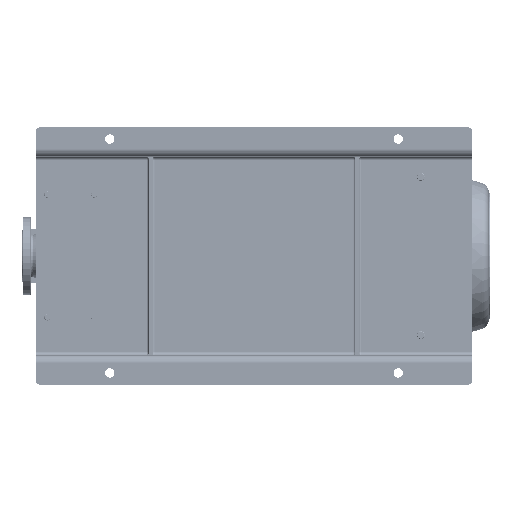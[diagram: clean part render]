
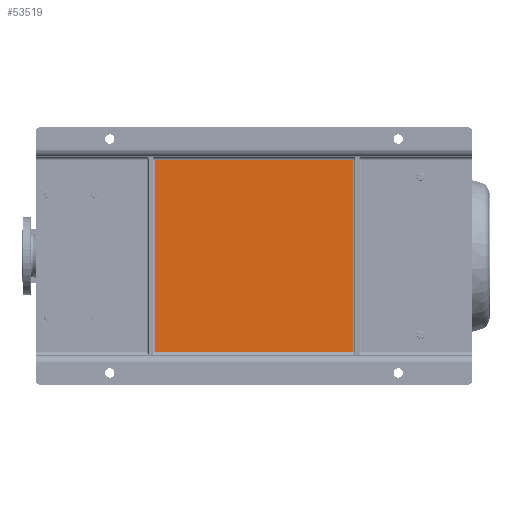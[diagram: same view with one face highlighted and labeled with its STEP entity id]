
A CAD part, front view. The second image highlights one B-rep face of the part: STEP entity #53519.
In plain terms, the highlighted planar face has unit normal (0, -1, 0).
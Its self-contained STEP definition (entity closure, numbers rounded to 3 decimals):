
#13388 = DIRECTION ( 'NONE',  ( 1., 0., 0. ) ) ;
#15774 = VECTOR ( 'NONE', #86744, 1000. ) ;
#17109 = VECTOR ( 'NONE', #158695, 1000. ) ;
#21745 = VERTEX_POINT ( 'NONE', #115528 ) ;
#22312 = EDGE_CURVE ( 'NONE', #104711, #82666, #172264, .T. ) ;
#22499 = ORIENTED_EDGE ( 'NONE', *, *, #130417, .T. ) ;
#23977 = ORIENTED_EDGE ( 'NONE', *, *, #119476, .T. ) ;
#28925 = PLANE ( 'NONE',  #166783 ) ;
#29374 = EDGE_CURVE ( 'NONE', #92967, #104711, #72737, .T. ) ;
#30375 = ORIENTED_EDGE ( 'NONE', *, *, #29374, .T. ) ;
#31960 = VECTOR ( 'NONE', #13388, 1000. ) ;
#36865 = EDGE_LOOP ( 'NONE', ( #183041, #22499, #23977, #30375 ) ) ;
#41318 = CARTESIAN_POINT ( 'NONE',  ( 85., 65., -815. ) ) ;
#44980 = CARTESIAN_POINT ( 'NONE',  ( 85., 65., -820. ) ) ;
#53519 = ADVANCED_FACE ( 'NONE', ( #170156 ), #28925, .T. ) ;
#57733 = VECTOR ( 'NONE', #145165, 1000. ) ;
#61369 = DIRECTION ( 'NONE',  ( 0., 0., -1. ) ) ;
#71630 = DIRECTION ( 'NONE',  ( 0., -1., 0. ) ) ;
#72737 = LINE ( 'NONE', #88453, #57733 ) ;
#82666 = VERTEX_POINT ( 'NONE', #41318 ) ;
#86744 = DIRECTION ( 'NONE',  ( 0., 0., -1. ) ) ;
#88453 = CARTESIAN_POINT ( 'NONE',  ( 75., 65., -305. ) ) ;
#92967 = VERTEX_POINT ( 'NONE', #109272 ) ;
#95139 = CARTESIAN_POINT ( 'NONE',  ( 75., 65., -815. ) ) ;
#96977 = LINE ( 'NONE', #95139, #31960 ) ;
#104711 = VERTEX_POINT ( 'NONE', #116600 ) ;
#109272 = CARTESIAN_POINT ( 'NONE',  ( 575., 65., -305. ) ) ;
#115034 = CARTESIAN_POINT ( 'NONE',  ( 575., 65., -300. ) ) ;
#115528 = CARTESIAN_POINT ( 'NONE',  ( 575., 65., -815. ) ) ;
#116600 = CARTESIAN_POINT ( 'NONE',  ( 85., 65., -305. ) ) ;
#119476 = EDGE_CURVE ( 'NONE', #21745, #92967, #169892, .T. ) ;
#130417 = EDGE_CURVE ( 'NONE', #82666, #21745, #96977, .T. ) ;
#142261 = CARTESIAN_POINT ( 'NONE',  ( 75., 65., -1120. ) ) ;
#145165 = DIRECTION ( 'NONE',  ( -1., 0., 0. ) ) ;
#158695 = DIRECTION ( 'NONE',  ( 0., 0., 1. ) ) ;
#166783 = AXIS2_PLACEMENT_3D ( 'NONE', #142261, #71630, #61369 ) ;
#169892 = LINE ( 'NONE', #115034, #17109 ) ;
#170156 = FACE_OUTER_BOUND ( 'NONE', #36865, .T. ) ;
#172264 = LINE ( 'NONE', #44980, #15774 ) ;
#183041 = ORIENTED_EDGE ( 'NONE', *, *, #22312, .T. ) ;
